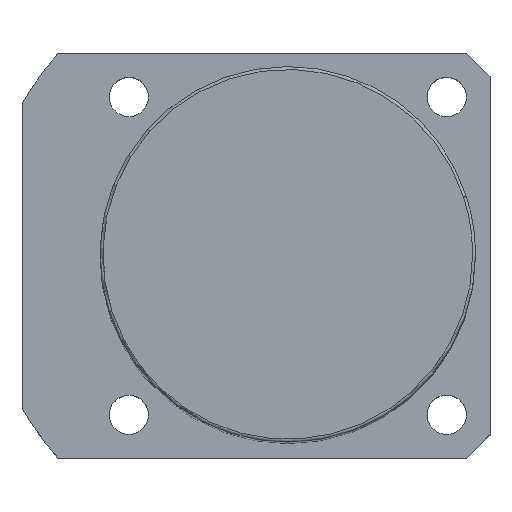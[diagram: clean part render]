
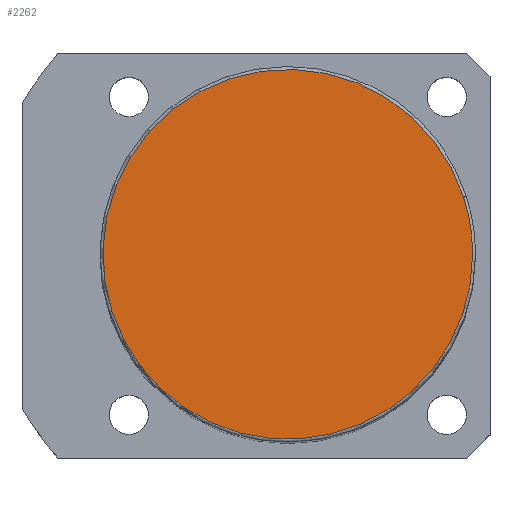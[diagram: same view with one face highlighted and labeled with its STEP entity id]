
A CAD part, top view. The second image highlights one B-rep face of the part: STEP entity #2262.
In plain terms, the highlighted planar face has unit normal (0, 0, 1).
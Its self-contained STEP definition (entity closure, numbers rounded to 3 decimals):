
#2228=CARTESIAN_POINT('',(32.0,0.0,166.0));
#2229=VERTEX_POINT('',#2228);
#2230=CARTESIAN_POINT('',(30.434,9.889,166.0));
#2231=VERTEX_POINT('',#2230);
#2232=CARTESIAN_POINT('',(0.0,0.0,166.0));
#2233=DIRECTION('',(0.0,0.0,1.0));
#2234=DIRECTION('',(1.0,0.0,0.0));
#2235=AXIS2_PLACEMENT_3D('',#2232,#2233,#2234);
#2236=CIRCLE('',#2235,32.0);
#2237=EDGE_CURVE('no 2126',#2229,#2231,#2236,.T.);
#2238=ORIENTED_EDGE('',*,*,#2237,.T.);
#2239=CARTESIAN_POINT('',(-30.434,-9.889,166.0));
#2240=VERTEX_POINT('',#2239);
#2241=CARTESIAN_POINT('',(0.0,0.0,166.0));
#2242=DIRECTION('',(0.0,0.0,1.0));
#2243=DIRECTION('',(1.0,0.0,0.0));
#2244=AXIS2_PLACEMENT_3D('',#2241,#2242,#2243);
#2245=CIRCLE('',#2244,32.0);
#2246=EDGE_CURVE('no 2132',#2231,#2240,#2245,.T.);
#2247=ORIENTED_EDGE('',*,*,#2246,.T.);
#2248=CARTESIAN_POINT('',(0.0,0.0,166.0));
#2249=DIRECTION('',(0.0,0.0,1.0));
#2250=DIRECTION('',(1.0,0.0,0.0));
#2251=AXIS2_PLACEMENT_3D('',#2248,#2249,#2250);
#2252=CIRCLE('',#2251,32.0);
#2253=EDGE_CURVE('no 2136',#2240,#2229,#2252,.T.);
#2254=ORIENTED_EDGE('',*,*,#2253,.T.);
#2255=EDGE_LOOP('',(#2238,#2247,#2254));
#2256=FACE_OUTER_BOUND('',#2255,.T.);
#2257=CARTESIAN_POINT('',(0.0,0.0,166.0));
#2258=DIRECTION('',(0.0,0.0,1.0));
#2259=DIRECTION('',(1.0,0.0,0.0));
#2260=AXIS2_PLACEMENT_3D('',#2257,#2258,#2259);
#2261=PLANE('',#2260);
#2262=ADVANCED_FACE('no 2117',(#2256),#2261,.T.);
